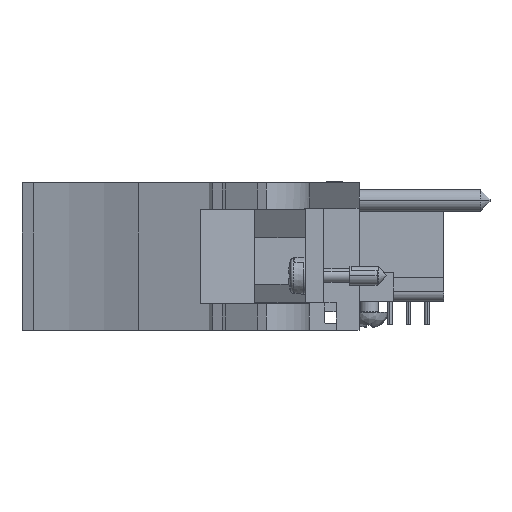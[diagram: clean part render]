
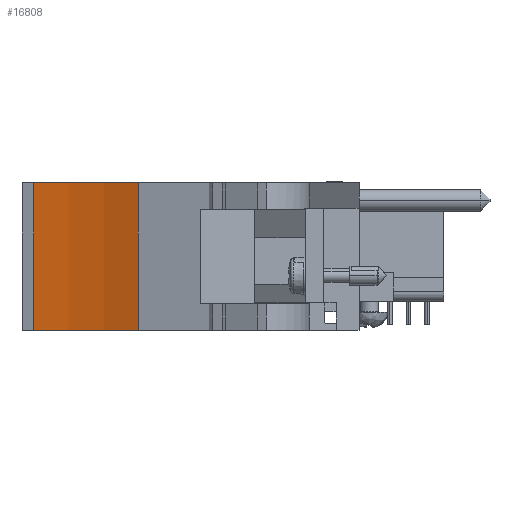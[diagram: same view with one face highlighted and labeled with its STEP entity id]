
A CAD part, front view. The second image highlights one B-rep face of the part: STEP entity #16808.
In plain terms, the highlighted cylindrical face has radius 51.46 mm (diameter 102.919 mm), a partial arc.
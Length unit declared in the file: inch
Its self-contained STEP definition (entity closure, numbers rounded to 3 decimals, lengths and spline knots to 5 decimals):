
#3831=DIRECTION('',(0.,0.,1.));
#3832=VECTOR('',#3831,0.788);
#3833=CARTESIAN_POINT('',(-5.16903,-4.12655,
-0.0955));
#3834=LINE('',#3833,#3832);
#3892=CARTESIAN_POINT('',(-6.05033,-5.95079,-0.0955));
#3893=DIRECTION('',(0.,0.,1.));
#3894=DIRECTION('',(0.435,0.9,0.));
#3895=AXIS2_PLACEMENT_3D('',#3892,#3893,#3894);
#4206=CARTESIAN_POINT('',(-6.05033,-5.95079,0.6925));
#4207=DIRECTION('',(0.,0.,1.));
#4208=DIRECTION('',(0.435,0.9,0.));
#4209=AXIS2_PLACEMENT_3D('',#4206,#4207,#4208);
#4450=DIRECTION('',(0.,0.,1.));
#4451=VECTOR('',#4450,0.788);
#4452=CARTESIAN_POINT('',(-5.727,-3.95079,-0.0955));
#4453=LINE('',#4452,#4451);
#9585=CARTESIAN_POINT('',(-5.16903,-4.12655,
-0.0955));
#9586=CARTESIAN_POINT('',(-5.727,-3.95079,-0.0955));
#9587=VERTEX_POINT('',#9585);
#9588=VERTEX_POINT('',#9586);
#9589=CARTESIAN_POINT('',(-5.16903,-4.12655,
0.6925));
#9590=CARTESIAN_POINT('',(-5.727,-3.95079,0.6925));
#9591=VERTEX_POINT('',#9589);
#9592=VERTEX_POINT('',#9590);
#16794=CARTESIAN_POINT('',(-6.05033,-5.95079,0.6925));
#16795=DIRECTION('',(0.,0.,1.));
#16796=DIRECTION('',(0.,1.,0.));
#16797=AXIS2_PLACEMENT_3D('',#16794,#16795,#16796);
#16798=CYLINDRICAL_SURFACE('',#16797,2.02597);
#16800=ORIENTED_EDGE('',*,*,#16799,.T.);
#16802=ORIENTED_EDGE('',*,*,#16801,.T.);
#16804=ORIENTED_EDGE('',*,*,#16803,.F.);
#16805=ORIENTED_EDGE('',*,*,#16777,.F.);
#16806=EDGE_LOOP('',(#16800,#16802,#16804,#16805));
#16807=FACE_OUTER_BOUND('',#16806,.F.);
#16808=ADVANCED_FACE('',(#16807),#16798,.F.);
#3896=CIRCLE('',#3895,2.02597);
#4210=CIRCLE('',#4209,2.02597);
#16777=EDGE_CURVE('',#9587,#9591,#3834,.T.);
#16799=EDGE_CURVE('',#9587,#9588,#3896,.T.);
#16801=EDGE_CURVE('',#9588,#9592,#4453,.T.);
#16803=EDGE_CURVE('',#9591,#9592,#4210,.T.);
